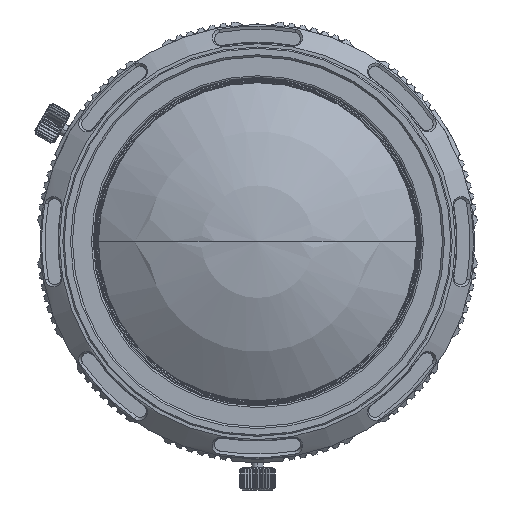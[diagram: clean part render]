
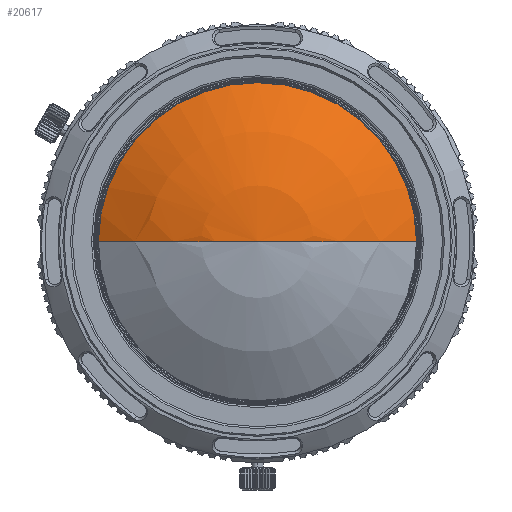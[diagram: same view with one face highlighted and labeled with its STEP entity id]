
A CAD part, left-side view. The second image highlights one B-rep face of the part: STEP entity #20617.
In plain terms, the highlighted spherical face has radius 42.539 mm.
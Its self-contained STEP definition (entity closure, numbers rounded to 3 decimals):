
#7043=CARTESIAN_POINT('',(-33.515,0.,0.));
#7044=DIRECTION('',(1.,0.,0.));
#7045=DIRECTION('',(0.,1.,0.));
#7046=AXIS2_PLACEMENT_3D('',#7043,#7044,#7045);
#7053=CARTESIAN_POINT('',(1.213,0.,0.));
#7054=DIRECTION('',(0.,0.,1.));
#7055=DIRECTION('',(-0.816,0.578,0.));
#7056=AXIS2_PLACEMENT_3D('',#7053,#7054,#7055);
#7058=CARTESIAN_POINT('',(1.213,0.,0.));
#7059=DIRECTION('',(0.,0.,-1.));
#7060=DIRECTION('',(-0.816,-0.578,0.));
#7061=AXIS2_PLACEMENT_3D('',#7058,#7059,#7060);
#13282=CARTESIAN_POINT('',(-33.515,24.568,0.));
#13283=CARTESIAN_POINT('',(-33.515,-24.568,0.));
#13284=VERTEX_POINT('',#13282);
#13285=VERTEX_POINT('',#13283);
#13300=CARTESIAN_POINT('',(-41.326,0.,0.));
#13301=VERTEX_POINT('',#13300);
#20605=CARTESIAN_POINT('',(1.213,0.,0.));
#20606=DIRECTION('',(1.,0.,0.));
#20607=DIRECTION('',(0.,-1.,0.));
#20608=AXIS2_PLACEMENT_3D('',#20605,#20606,#20607);
#20609=SPHERICAL_SURFACE('',#20608,42.539);
#20610=ORIENTED_EDGE('',*,*,#20598,.T.);
#20612=ORIENTED_EDGE('',*,*,#20611,.T.);
#20614=ORIENTED_EDGE('',*,*,#20613,.F.);
#20615=EDGE_LOOP('',(#20610,#20612,#20614));
#20616=FACE_OUTER_BOUND('',#20615,.F.);
#7047=CIRCLE('',#7046,24.568);
#7057=CIRCLE('',#7056,42.539);
#7062=CIRCLE('',#7061,42.539);
#20598=EDGE_CURVE('',#13284,#13285,#7047,.T.);
#20611=EDGE_CURVE('',#13285,#13301,#7062,.T.);
#20613=EDGE_CURVE('',#13284,#13301,#7057,.T.);
#20617=ADVANCED_FACE('',(#20616),#20609,.T.);
